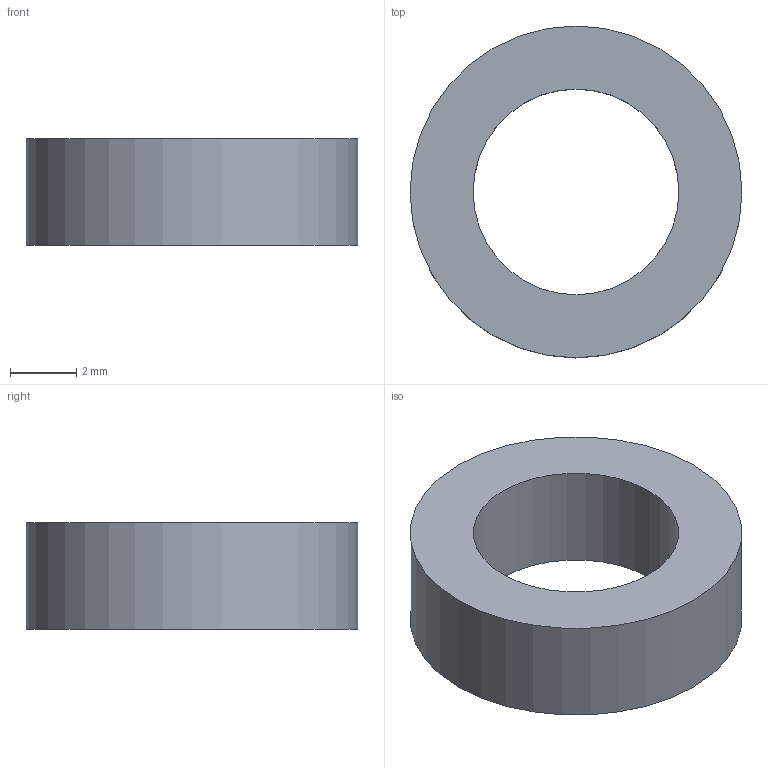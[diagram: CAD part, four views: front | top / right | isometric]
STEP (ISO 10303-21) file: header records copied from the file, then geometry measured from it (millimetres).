
FILE_DESCRIPTION(('Open CASCADE Model'),'2;1');
FILE_NAME('Open CASCADE Shape Model','2026-11-14T14:31:54',('Author'),( 'Open CASCADE'),'Open CASCADE STEP processor 8.0','Open CASCADE 8.0' ,'Unknown');
FILE_SCHEMA(('AUTOMOTIVE_DESIGN { 1 0 10303 214 1 1 1 1 }'));
Length unit declared in the file: millimetre
Products named in the file (1): Open CASCADE STEP translator 8.0 2
Bounding box: 10 x 10 x 3.2 mm (x, y, z)
Volume: 154.7 mm3; surface area: 259.6 mm2
Topology: 1 solids, 1 shells, 4 faces, 6 edges, 4 vertices
Faces by surface type: cylinder 2, plane 2
Full cylindrical faces by diameter (mm): 6.2 x1, 10 x1
Entity records: 186 total; most frequent: DIRECTION 32, CARTESIAN_POINT 27, ORIENTED_EDGE 12, PCURVE 12, DEFINITIONAL_REPRESENTATION 12, LINE 10, VECTOR 10, AXIS2_PLACEMENT_3D 9
